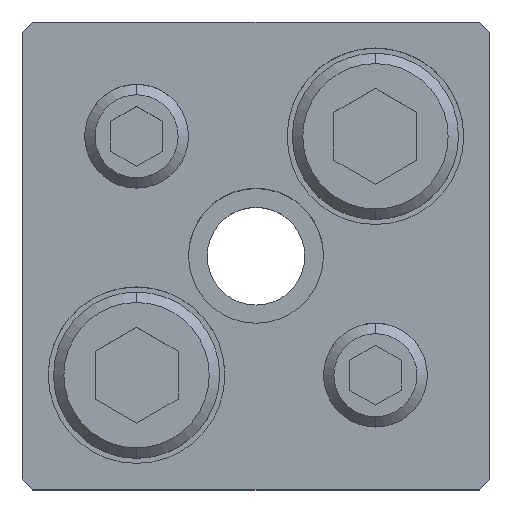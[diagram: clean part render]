
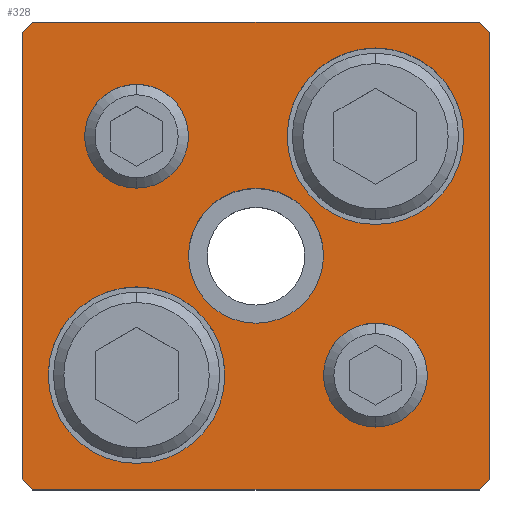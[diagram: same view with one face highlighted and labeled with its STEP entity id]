
A CAD part, top view. The second image highlights one B-rep face of the part: STEP entity #328.
In plain terms, the highlighted planar face has unit normal (0, 0, 1).
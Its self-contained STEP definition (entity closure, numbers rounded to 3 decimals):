
#119=PLANE('',#2702);
#192=FACE_BOUND('',#649,.T.);
#193=FACE_BOUND('',#650,.T.);
#194=FACE_BOUND('',#651,.T.);
#195=FACE_BOUND('',#652,.T.);
#196=FACE_BOUND('',#653,.T.);
#197=FACE_BOUND('',#654,.T.);
#328=ADVANCED_FACE('',(#192,#193,#194,#195,#196,#197),#119,.T.);
#649=EDGE_LOOP('',(#1071,#1072,#1073,#1074,#1075,#1076,#1077,#1078));
#650=EDGE_LOOP('',(#1079,#1080));
#651=EDGE_LOOP('',(#1081,#1082));
#652=EDGE_LOOP('',(#1083,#1084));
#653=EDGE_LOOP('',(#1085,#1086));
#654=EDGE_LOOP('',(#1087,#1088));
#833=CIRCLE('',#2678,5.);
#835=CIRCLE('',#2681,5.);
#837=CIRCLE('',#2684,5.);
#839=CIRCLE('',#2687,5.);
#845=CIRCLE('',#2696,8.5);
#846=CIRCLE('',#2697,8.5);
#847=CIRCLE('',#2698,8.5);
#848=CIRCLE('',#2699,8.5);
#849=CIRCLE('',#2700,6.5);
#850=CIRCLE('',#2701,6.5);
#1071=ORIENTED_EDGE('',*,*,#1923,.T.);
#1072=ORIENTED_EDGE('',*,*,#1924,.T.);
#1073=ORIENTED_EDGE('',*,*,#1925,.T.);
#1074=ORIENTED_EDGE('',*,*,#1926,.T.);
#1075=ORIENTED_EDGE('',*,*,#1927,.T.);
#1076=ORIENTED_EDGE('',*,*,#1928,.T.);
#1077=ORIENTED_EDGE('',*,*,#1929,.T.);
#1078=ORIENTED_EDGE('',*,*,#1930,.T.);
#1079=ORIENTED_EDGE('',*,*,#1931,.F.);
#1080=ORIENTED_EDGE('',*,*,#1932,.F.);
#1081=ORIENTED_EDGE('',*,*,#1933,.F.);
#1082=ORIENTED_EDGE('',*,*,#1934,.F.);
#1083=ORIENTED_EDGE('',*,*,#1915,.F.);
#1084=ORIENTED_EDGE('',*,*,#1911,.F.);
#1085=ORIENTED_EDGE('',*,*,#1909,.F.);
#1086=ORIENTED_EDGE('',*,*,#1905,.F.);
#1087=ORIENTED_EDGE('',*,*,#1935,.T.);
#1088=ORIENTED_EDGE('',*,*,#1936,.T.);
#1659=VERTEX_POINT('',#3859);
#1660=VERTEX_POINT('',#3860);
#1663=VERTEX_POINT('',#3871);
#1664=VERTEX_POINT('',#3872);
#1671=VERTEX_POINT('',#3895);
#1672=VERTEX_POINT('',#3896);
#1673=VERTEX_POINT('',#3898);
#1674=VERTEX_POINT('',#3900);
#1675=VERTEX_POINT('',#3902);
#1676=VERTEX_POINT('',#3904);
#1677=VERTEX_POINT('',#3906);
#1678=VERTEX_POINT('',#3908);
#1679=VERTEX_POINT('',#3911);
#1680=VERTEX_POINT('',#3912);
#1681=VERTEX_POINT('',#3915);
#1682=VERTEX_POINT('',#3916);
#1683=VERTEX_POINT('',#3919);
#1684=VERTEX_POINT('',#3920);
#1905=EDGE_CURVE('',#1659,#1660,#833,.T.);
#1909=EDGE_CURVE('',#1660,#1659,#835,.T.);
#1911=EDGE_CURVE('',#1663,#1664,#837,.T.);
#1915=EDGE_CURVE('',#1664,#1663,#839,.T.);
#1923=EDGE_CURVE('',#1671,#1672,#2217,.T.);
#1924=EDGE_CURVE('',#1672,#1673,#2218,.T.);
#1925=EDGE_CURVE('',#1673,#1674,#2219,.T.);
#1926=EDGE_CURVE('',#1674,#1675,#2220,.T.);
#1927=EDGE_CURVE('',#1675,#1676,#2221,.T.);
#1928=EDGE_CURVE('',#1676,#1677,#2222,.T.);
#1929=EDGE_CURVE('',#1677,#1678,#2223,.T.);
#1930=EDGE_CURVE('',#1678,#1671,#2224,.T.);
#1931=EDGE_CURVE('',#1679,#1680,#845,.T.);
#1932=EDGE_CURVE('',#1680,#1679,#846,.T.);
#1933=EDGE_CURVE('',#1681,#1682,#847,.T.);
#1934=EDGE_CURVE('',#1682,#1681,#848,.T.);
#1935=EDGE_CURVE('',#1683,#1684,#849,.T.);
#1936=EDGE_CURVE('',#1684,#1683,#850,.T.);
#2217=LINE('',#3894,#2429);
#2218=LINE('',#3897,#2430);
#2219=LINE('',#3899,#2431);
#2220=LINE('',#3901,#2432);
#2221=LINE('',#3903,#2433);
#2222=LINE('',#3905,#2434);
#2223=LINE('',#3907,#2435);
#2224=LINE('',#3909,#2436);
#2429=VECTOR('',#3097,1.);
#2430=VECTOR('',#3098,1.);
#2431=VECTOR('',#3099,1.);
#2432=VECTOR('',#3100,1.);
#2433=VECTOR('',#3101,1.);
#2434=VECTOR('',#3102,1.);
#2435=VECTOR('',#3103,1.);
#2436=VECTOR('',#3104,1.);
#2678=AXIS2_PLACEMENT_3D('',#3858,#3055,#3056);
#2681=AXIS2_PLACEMENT_3D('',#3867,#3063,#3064);
#2684=AXIS2_PLACEMENT_3D('',#3870,#3069,#3070);
#2687=AXIS2_PLACEMENT_3D('',#3879,#3077,#3078);
#2696=AXIS2_PLACEMENT_3D('',#3910,#3105,#3106);
#2697=AXIS2_PLACEMENT_3D('',#3913,#3107,#3108);
#2698=AXIS2_PLACEMENT_3D('',#3914,#3109,#3110);
#2699=AXIS2_PLACEMENT_3D('',#3917,#3111,#3112);
#2700=AXIS2_PLACEMENT_3D('',#3918,#3113,#3114);
#2701=AXIS2_PLACEMENT_3D('',#3921,#3115,#3116);
#2702=AXIS2_PLACEMENT_3D('',#3922,#3117,#3118);
#3055=DIRECTION('',(0.,0.,1.));
#3056=DIRECTION('',(1.,0.,0.));
#3063=DIRECTION('',(0.,0.,1.));
#3064=DIRECTION('',(-1.,0.,0.));
#3069=DIRECTION('',(0.,0.,1.));
#3070=DIRECTION('',(1.,0.,0.));
#3077=DIRECTION('',(0.,0.,1.));
#3078=DIRECTION('',(-1.,0.,0.));
#3097=DIRECTION('',(1.,0.,0.));
#3098=DIRECTION('',(0.707,0.707,0.));
#3099=DIRECTION('',(0.,1.,0.));
#3100=DIRECTION('',(-0.707,0.707,0.));
#3101=DIRECTION('',(-1.,0.,0.));
#3102=DIRECTION('',(-0.707,-0.707,0.));
#3103=DIRECTION('',(0.,-1.,0.));
#3104=DIRECTION('',(0.707,-0.707,0.));
#3105=DIRECTION('',(0.,0.,1.));
#3106=DIRECTION('',(1.,0.,0.));
#3107=DIRECTION('',(0.,0.,1.));
#3108=DIRECTION('',(-1.,0.,0.));
#3109=DIRECTION('',(0.,0.,1.));
#3110=DIRECTION('',(1.,0.,0.));
#3111=DIRECTION('',(0.,0.,1.));
#3112=DIRECTION('',(-1.,0.,0.));
#3113=DIRECTION('',(0.,0.,-1.));
#3114=DIRECTION('',(-1.,0.,0.));
#3115=DIRECTION('',(0.,0.,-1.));
#3116=DIRECTION('',(1.,0.,0.));
#3117=DIRECTION('',(0.,0.,1.));
#3118=DIRECTION('',(-1.,0.,0.));
#3858=CARTESIAN_POINT('',(11.5,-11.5,35.));
#3859=CARTESIAN_POINT('',(11.5,-6.5,35.));
#3860=CARTESIAN_POINT('',(11.5,-16.5,35.));
#3867=CARTESIAN_POINT('',(11.5,-11.5,35.));
#3870=CARTESIAN_POINT('',(-11.5,11.5,35.));
#3871=CARTESIAN_POINT('',(-11.5,16.5,35.));
#3872=CARTESIAN_POINT('',(-11.5,6.5,35.));
#3879=CARTESIAN_POINT('',(-11.5,11.5,35.));
#3894=CARTESIAN_POINT('',(21.5,-22.5,35.));
#3895=CARTESIAN_POINT('',(-21.5,-22.5,35.));
#3896=CARTESIAN_POINT('',(21.5,-22.5,35.));
#3897=CARTESIAN_POINT('',(22.5,-21.5,35.));
#3898=CARTESIAN_POINT('',(22.5,-21.5,35.));
#3899=CARTESIAN_POINT('',(22.5,21.5,35.));
#3900=CARTESIAN_POINT('',(22.5,21.5,35.));
#3901=CARTESIAN_POINT('',(21.5,22.5,35.));
#3902=CARTESIAN_POINT('',(21.5,22.5,35.));
#3903=CARTESIAN_POINT('',(-21.5,22.5,35.));
#3904=CARTESIAN_POINT('',(-21.5,22.5,35.));
#3905=CARTESIAN_POINT('',(-22.5,21.5,35.));
#3906=CARTESIAN_POINT('',(-22.5,21.5,35.));
#3907=CARTESIAN_POINT('',(-22.5,-21.5,35.));
#3908=CARTESIAN_POINT('',(-22.5,-21.5,35.));
#3909=CARTESIAN_POINT('',(-21.5,-22.5,35.));
#3910=CARTESIAN_POINT('',(-11.5,-11.5,35.));
#3911=CARTESIAN_POINT('',(-11.5,-3.,35.));
#3912=CARTESIAN_POINT('',(-11.5,-20.,35.));
#3913=CARTESIAN_POINT('',(-11.5,-11.5,35.));
#3914=CARTESIAN_POINT('',(11.5,11.5,35.));
#3915=CARTESIAN_POINT('',(11.5,20.,35.));
#3916=CARTESIAN_POINT('',(11.5,3.,35.));
#3917=CARTESIAN_POINT('',(11.5,11.5,35.));
#3918=CARTESIAN_POINT('',(0.,0.,35.));
#3919=CARTESIAN_POINT('',(0.,6.5,35.));
#3920=CARTESIAN_POINT('',(0.,-6.5,35.));
#3921=CARTESIAN_POINT('',(0.,0.,35.));
#3922=CARTESIAN_POINT('',(-21.5,-22.5,35.));
